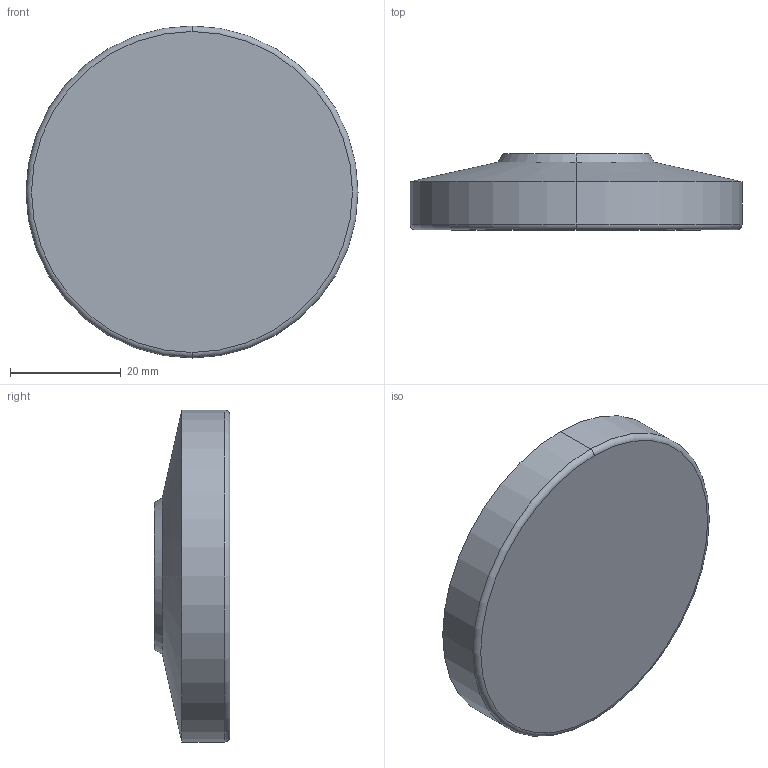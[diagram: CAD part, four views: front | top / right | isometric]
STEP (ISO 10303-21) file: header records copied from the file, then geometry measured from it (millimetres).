
FILE_DESCRIPTION (( 'STEP AP214' ), '1' );
FILE_NAME ('6311.3-60-13,5-N.step', '2023-04-17T05:34:35', ( '' ), ( '' ), 'SwSTEP 2.0', 'SolidWorks 2022', '' );
FILE_SCHEMA (( 'AUTOMOTIVE_DESIGN' ));
Length unit declared in the file: millimetre
Products named in the file (1): 6311.3-60-13,5-N
Bounding box: 60 x 13.7 x 60 mm (x, y, z)
Volume: 29660.3 mm3; surface area: 8796.6 mm2
Topology: 1 solids, 1 shells, 30 faces, 67 edges, 42 vertices
Faces by surface type: cylinder 12, torus 6, plane 6, cone 4, sphere 2
Entity records: 990 total; most frequent: CARTESIAN_POINT 176, DIRECTION 169, ORIENTED_EDGE 134, AXIS2_PLACEMENT_3D 75, EDGE_CURVE 67, CIRCLE 44, VERTEX_POINT 42, EDGE_LOOP 33
